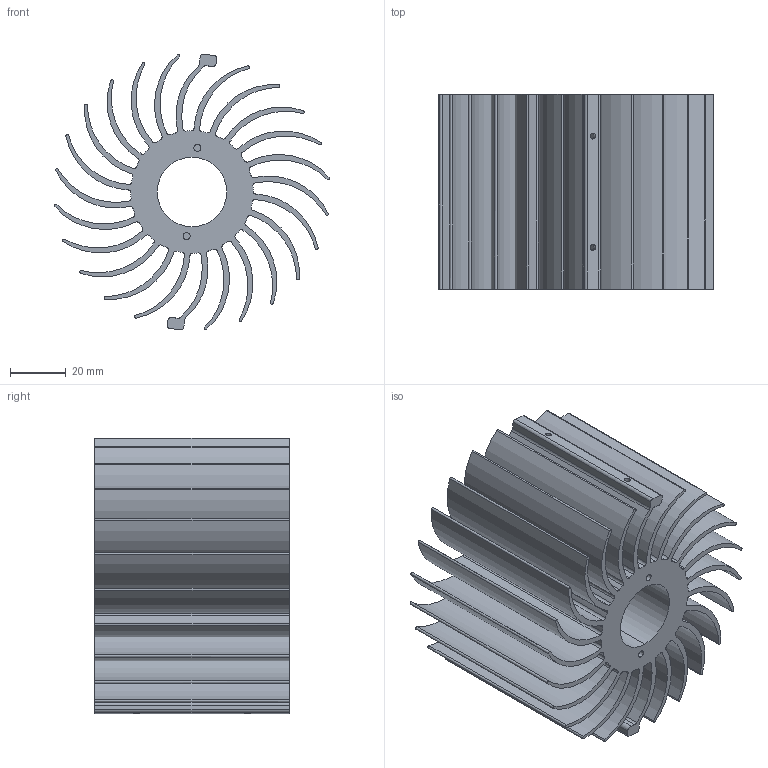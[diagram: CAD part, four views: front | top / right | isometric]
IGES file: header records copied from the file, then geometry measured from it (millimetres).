
Start section:  PTC IGES file: x00511_revd.igs
Global section: file name: x00511_revd.igs; native system: Pro/ENGINEER by Parametric Technology Corporation; preprocessor: 2010230; author: Jonah; organization: Unknown; date: 20120604.145852; units: millimetre
Bounding box: 98.9 x 70 x 99.16 mm (x, y, z)
Volume: 169506.8 mm3; surface area: 125876.7 mm2
Topology: 1 solids, 1 shells, 193 faces, 564 edges, 376 vertices
Faces by surface type: revolution 178, bspline 15
